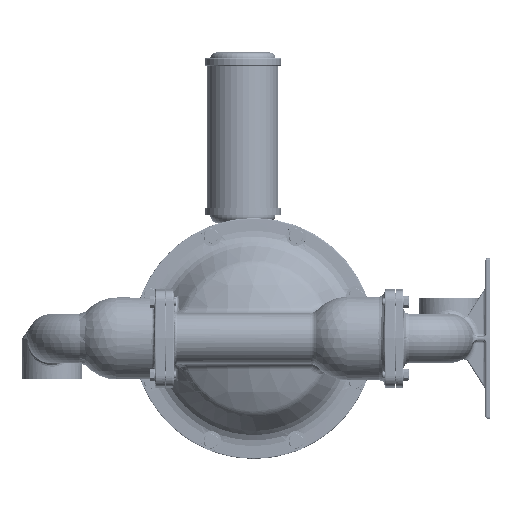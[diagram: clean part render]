
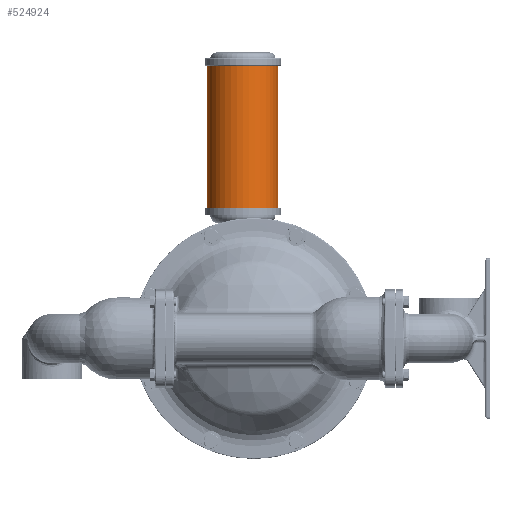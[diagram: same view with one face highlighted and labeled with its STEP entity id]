
A CAD part, left-side view. The second image highlights one B-rep face of the part: STEP entity #524924.
In plain terms, the highlighted cylindrical face has radius 61.722 mm (diameter 123.444 mm), a partial arc.
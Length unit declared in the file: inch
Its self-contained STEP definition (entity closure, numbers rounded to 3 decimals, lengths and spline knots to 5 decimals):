
#12368 = DIRECTION ( 'NONE',  ( 0., 1., 0. ) ) ;
#34362 = CARTESIAN_POINT ( 'NONE',  ( 0., 0.75, 20.2325 ) ) ;
#51532 = EDGE_CURVE ( 'NONE', #390977, #297576, #312955, .T. ) ;
#62460 = CARTESIAN_POINT ( 'NONE',  ( 0., -1.68, 18.745 ) ) ;
#69025 = EDGE_CURVE ( 'NONE', #390977, #189062, #242476, .T. ) ;
#82112 = DIRECTION ( 'NONE',  ( 0., -1., 0. ) ) ;
#83899 = CARTESIAN_POINT ( 'NONE',  ( 0., 3.18, 18.745 ) ) ;
#98573 = CARTESIAN_POINT ( 'NONE',  ( 0., -1.68, 8.965 ) ) ;
#116392 = ORIENTED_EDGE ( 'NONE', *, *, #316664, .T. ) ;
#120838 = EDGE_LOOP ( 'NONE', ( #581042, #116392, #480838, #298910 ) ) ;
#125872 = CIRCLE ( 'NONE', #183048, 2.43 ) ;
#146965 = DIRECTION ( 'NONE',  ( 0., 0., 1. ) ) ;
#155796 = CARTESIAN_POINT ( 'NONE',  ( 0., 3.18, 8.965 ) ) ;
#161864 = DIRECTION ( 'NONE',  ( 0., 0., 1. ) ) ;
#183048 = AXIS2_PLACEMENT_3D ( 'NONE', #487395, #161864, #305088 ) ;
#189062 = VERTEX_POINT ( 'NONE', #83899 ) ;
#191211 = LINE ( 'NONE', #98573, #221044 ) ;
#191714 = VERTEX_POINT ( 'NONE', #62460 ) ;
#200532 = CARTESIAN_POINT ( 'NONE',  ( 0., 0.75, 8.965 ) ) ;
#221044 = VECTOR ( 'NONE', #283732, 39.37008 ) ;
#242476 = LINE ( 'NONE', #155796, #435415 ) ;
#259120 = EDGE_CURVE ( 'NONE', #189062, #191714, #125872, .T. ) ;
#283732 = DIRECTION ( 'NONE',  ( 0., 0., 1. ) ) ;
#286965 = CARTESIAN_POINT ( 'NONE',  ( 0., -1.68, 8.965 ) ) ;
#297576 = VERTEX_POINT ( 'NONE', #286965 ) ;
#298910 = ORIENTED_EDGE ( 'NONE', *, *, #69025, .F. ) ;
#305088 = DIRECTION ( 'NONE',  ( 0., 1., 0. ) ) ;
#309160 = DIRECTION ( 'NONE',  ( 0., 0., -1. ) ) ;
#312955 = CIRCLE ( 'NONE', #398737, 2.43 ) ;
#316664 = EDGE_CURVE ( 'NONE', #297576, #191714, #191211, .T. ) ;
#343718 = DIRECTION ( 'NONE',  ( 0., 0., 1. ) ) ;
#346137 = CARTESIAN_POINT ( 'NONE',  ( 0., 3.18, 8.965 ) ) ;
#390977 = VERTEX_POINT ( 'NONE', #346137 ) ;
#395895 = FACE_OUTER_BOUND ( 'NONE', #120838, .T. ) ;
#398737 = AXIS2_PLACEMENT_3D ( 'NONE', #200532, #343718, #12368 ) ;
#435415 = VECTOR ( 'NONE', #146965, 39.37008 ) ;
#470665 = AXIS2_PLACEMENT_3D ( 'NONE', #34362, #309160, #82112 ) ;
#480838 = ORIENTED_EDGE ( 'NONE', *, *, #259120, .F. ) ;
#487395 = CARTESIAN_POINT ( 'NONE',  ( 0., 0.75, 18.745 ) ) ;
#524924 = ADVANCED_FACE ( 'NONE', ( #395895 ), #533258, .T. ) ;
#533258 = CYLINDRICAL_SURFACE ( 'NONE', #470665, 2.43 ) ;
#581042 = ORIENTED_EDGE ( 'NONE', *, *, #51532, .T. ) ;
